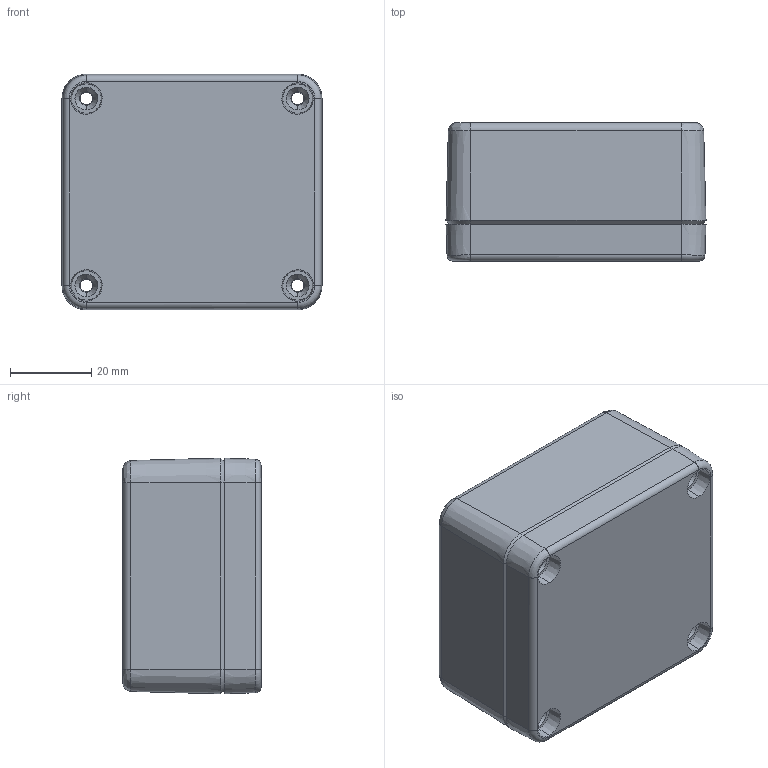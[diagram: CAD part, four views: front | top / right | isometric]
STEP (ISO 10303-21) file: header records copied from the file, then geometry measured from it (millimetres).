
FILE_DESCRIPTION (( 'STEP AP203' ), '1' );
FILE_NAME ('BB021.STEP', '2024-12-26T16:18:55', ( '' ), ( '' ), 'SwSTEP 2.0', 'SolidWorks 2019', '' );
FILE_SCHEMA (( 'CONFIG_CONTROL_DESIGN' ));
Length unit declared in the file: millimetre
Products named in the file (3): BASE_64_58_34; BB021; LID_64_58_34
Assembly tree (2 placements, depth 2):
  BB021
    BASE_64_58_34
    LID_64_58_34
Bounding box: 64 x 34 x 58 mm (x, y, z)
Volume: 47567.8 mm3; surface area: 32224.6 mm2
Topology: 2 solids, 2 shells, 397 faces, 1005 edges, 629 vertices
Faces by surface type: cone 141, plane 109, cylinder 84, bspline 32, torus 31
Entity records: 18809 total; most frequent: CARTESIAN_POINT 9865, ORIENTED_EDGE 2010, DIRECTION 1469, EDGE_CURVE 1005, VERTEX_POINT 629, AXIS2_PLACEMENT_3D 549, B_SPLINE_CURVE_WITH_KNOTS 434, EDGE_LOOP 434
